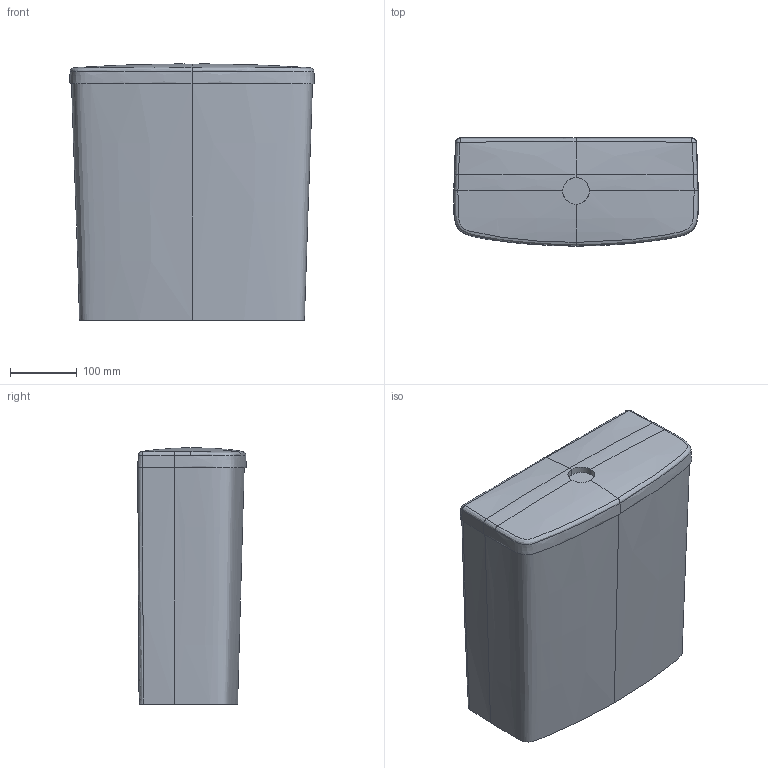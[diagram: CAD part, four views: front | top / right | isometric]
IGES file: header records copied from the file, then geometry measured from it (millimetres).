
Global section: file name: 500267; native system: Autodesk Inventor 2018; preprocessor: unknown; author: JANAN; date: 20200501.051948; units: millimetre
Bounding box: 368.23 x 163 x 385.04 mm (x, y, z)
Volume: 19674018.5 mm3; surface area: 466071.6 mm2
Topology: 1 solids, 1 shells, 45 faces, 111 edges, 66 vertices
Faces by surface type: bspline 45
